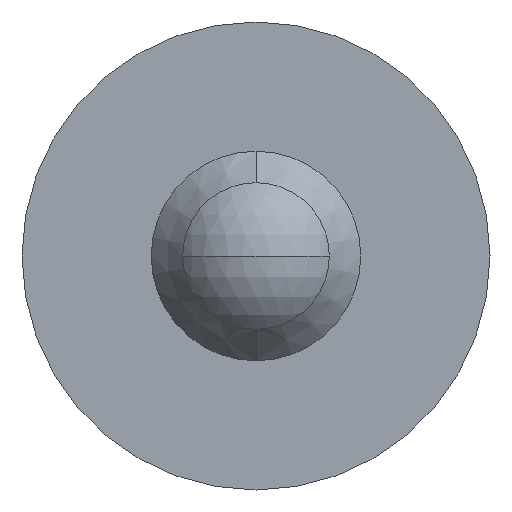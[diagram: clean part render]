
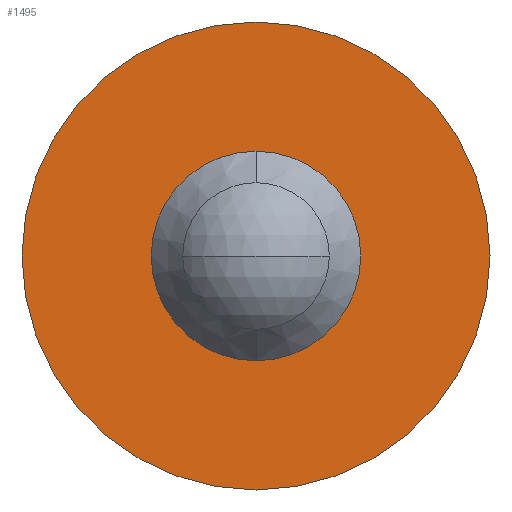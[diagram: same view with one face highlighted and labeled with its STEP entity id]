
A CAD part, front view. The second image highlights one B-rep face of the part: STEP entity #1495.
In plain terms, the highlighted planar face has unit normal (0, -1, 0).
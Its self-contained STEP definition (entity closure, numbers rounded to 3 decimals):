
#1 = EDGE_CURVE ( 'NONE', #1169, #1160, #299, .T. ) ;
#4 = EDGE_CURVE ( 'NONE', #1075, #1157, #302, .T. ) ;
#163 = CARTESIAN_POINT ( 'NONE',  ( 3.35, -7., 0. ) ) ;
#169 = DIRECTION ( 'NONE',  ( 0., 0., 1. ) ) ;
#182 = PLANE ( 'NONE',  #458 ) ;
#186 = DIRECTION ( 'NONE',  ( 0., 1., 0. ) ) ;
#197 = FACE_OUTER_BOUND ( 'NONE', #1211, .T. ) ;
#199 = FACE_BOUND ( 'NONE', #1186, .T. ) ;
#256 = AXIS2_PLACEMENT_3D ( 'NONE', #1275, #1272, #1266 ) ;
#263 = AXIS2_PLACEMENT_3D ( 'NONE', #1261, #1256, #1235 ) ;
#299 = CIRCLE ( 'NONE', #263, 1.05 ) ;
#302 = CIRCLE ( 'NONE', #256, 3.35 ) ;
#383 = AXIS2_PLACEMENT_3D ( 'NONE', #797, #798, #794 ) ;
#385 = CIRCLE ( 'NONE', #411, 1.05 ) ;
#411 = AXIS2_PLACEMENT_3D ( 'NONE', #847, #819, #829 ) ;
#414 = CIRCLE ( 'NONE', #383, 3.35 ) ;
#458 = AXIS2_PLACEMENT_3D ( 'NONE', #163, #186, #169 ) ;
#543 = CARTESIAN_POINT ( 'NONE',  ( 0., -7., 3.35 ) ) ;
#607 = CARTESIAN_POINT ( 'NONE',  ( 0., -7., -3.35 ) ) ;
#614 = CARTESIAN_POINT ( 'NONE',  ( 0., -7., -1.05 ) ) ;
#639 = CARTESIAN_POINT ( 'NONE',  ( 0., -7., 1.05 ) ) ;
#794 = DIRECTION ( 'NONE',  ( 0., 0., 1. ) ) ;
#797 = CARTESIAN_POINT ( 'NONE',  ( 0., -7., 0. ) ) ;
#798 = DIRECTION ( 'NONE',  ( 0., 1., 0. ) ) ;
#819 = DIRECTION ( 'NONE',  ( 0., 1., 0. ) ) ;
#829 = DIRECTION ( 'NONE',  ( 0., 0., 1. ) ) ;
#847 = CARTESIAN_POINT ( 'NONE',  ( 0., -7., 0. ) ) ;
#971 = ORIENTED_EDGE ( 'NONE', *, *, #1424, .F. ) ;
#976 = ORIENTED_EDGE ( 'NONE', *, *, #4, .F. ) ;
#988 = ORIENTED_EDGE ( 'NONE', *, *, #1, .T. ) ;
#991 = ORIENTED_EDGE ( 'NONE', *, *, #1436, .T. ) ;
#1075 = VERTEX_POINT ( 'NONE', #543 ) ;
#1157 = VERTEX_POINT ( 'NONE', #607 ) ;
#1160 = VERTEX_POINT ( 'NONE', #614 ) ;
#1169 = VERTEX_POINT ( 'NONE', #639 ) ;
#1186 = EDGE_LOOP ( 'NONE', ( #988, #991 ) ) ;
#1211 = EDGE_LOOP ( 'NONE', ( #976, #971 ) ) ;
#1235 = DIRECTION ( 'NONE',  ( 0., 0., 1. ) ) ;
#1256 = DIRECTION ( 'NONE',  ( 0., 1., 0. ) ) ;
#1261 = CARTESIAN_POINT ( 'NONE',  ( 0., -7., 0. ) ) ;
#1266 = DIRECTION ( 'NONE',  ( 0., 0., 1. ) ) ;
#1272 = DIRECTION ( 'NONE',  ( 0., 1., 0. ) ) ;
#1275 = CARTESIAN_POINT ( 'NONE',  ( 0., -7., 0. ) ) ;
#1424 = EDGE_CURVE ( 'NONE', #1157, #1075, #414, .T. ) ;
#1436 = EDGE_CURVE ( 'NONE', #1160, #1169, #385, .T. ) ;
#1495 = ADVANCED_FACE ( 'NONE', ( #197, #199 ), #182, .F. ) ;
